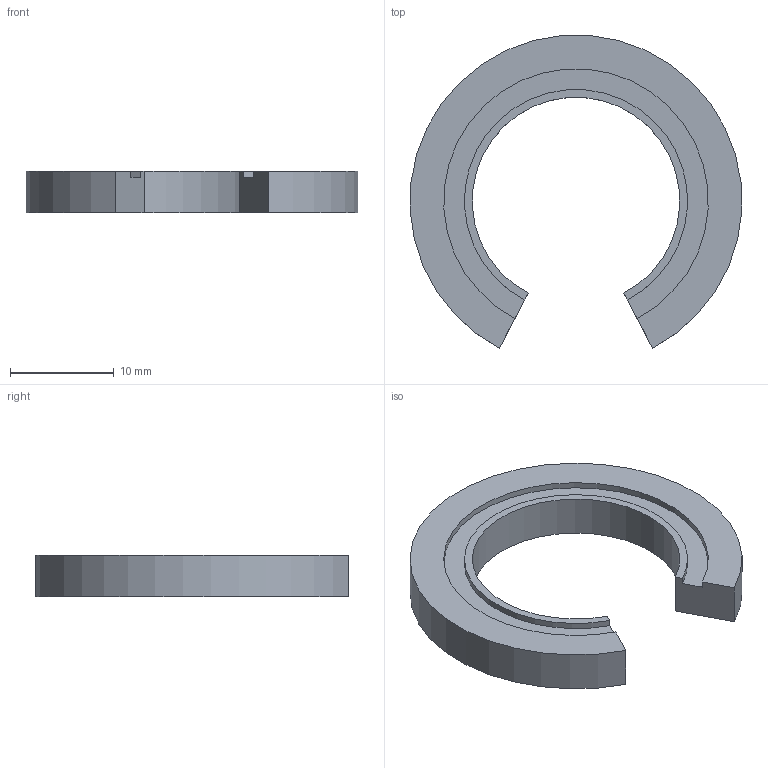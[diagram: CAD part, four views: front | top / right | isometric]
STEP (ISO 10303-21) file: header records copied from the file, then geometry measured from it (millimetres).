
FILE_DESCRIPTION(/* description */ (''),/* implementation_level */ '2;1');
FILE_NAME(/* name */ 'W:\WEBOVKY\Knecht\VD-OP\VD20-OP\VD20-OP.stp',/* time_stamp */ '2021-03-08T12:33:15+01:00',/* author */ ('mkorenek'),/* organization */ (''),/* preprocessor_version */ 'ST-DEVELOPER v18.1',/* originating_system */ 'Autodesk Inventor 2021',/* authorisation */ '');
FILE_SCHEMA (('AUTOMOTIVE_DESIGN { 1 0 10303 214 3 1 1 }'));
Length unit declared in the file: millimetre
Products named in the file (2): VD20-OP; VD16
Assembly tree (1 placements, depth 2):
  VD20-OP
    VD16
Bounding box: 31.94 x 30.13 x 4 mm (x, y, z)
Volume: 1585.8 mm3; surface area: 1504.7 mm2
Topology: 1 solids, 1 shells, 10 faces, 24 edges, 16 vertices
Faces by surface type: plane 6, cylinder 4
Entity records: 363 total; most frequent: DIRECTION 58, CARTESIAN_POINT 53, ORIENTED_EDGE 48, EDGE_CURVE 24, AXIS2_PLACEMENT_3D 21, LINE 16, VECTOR 16, VERTEX_POINT 16
